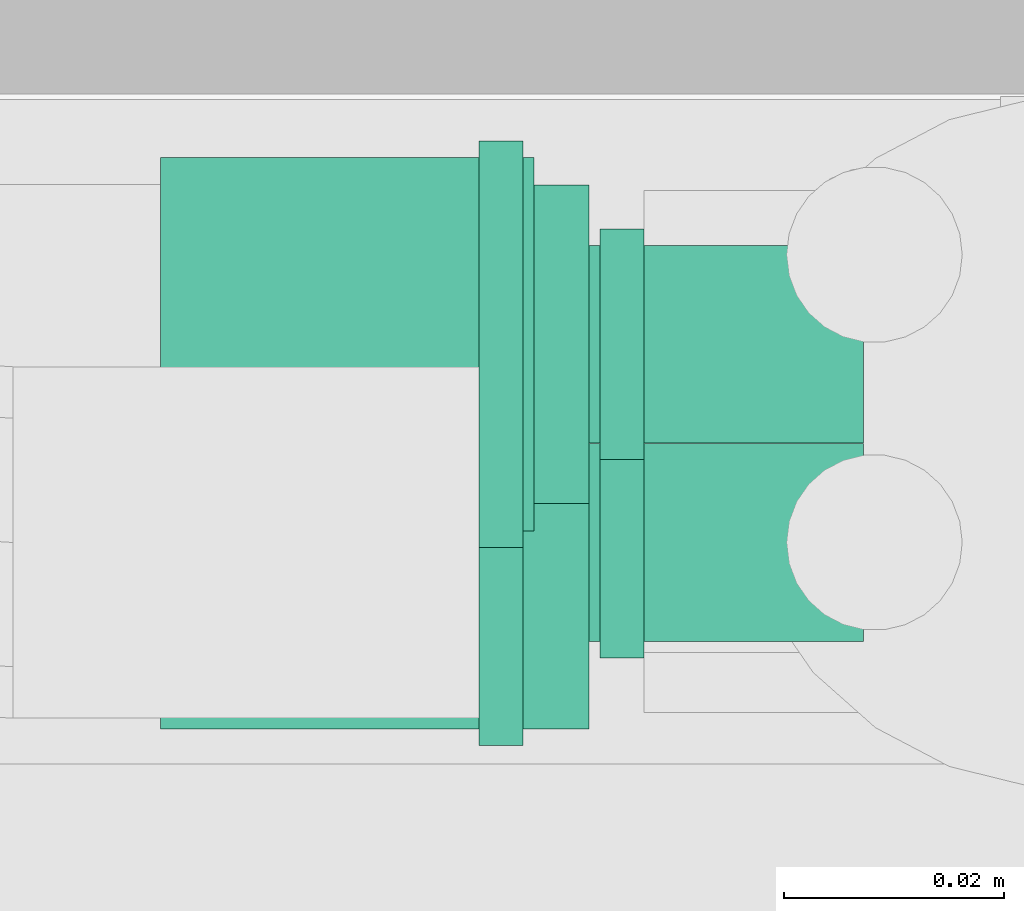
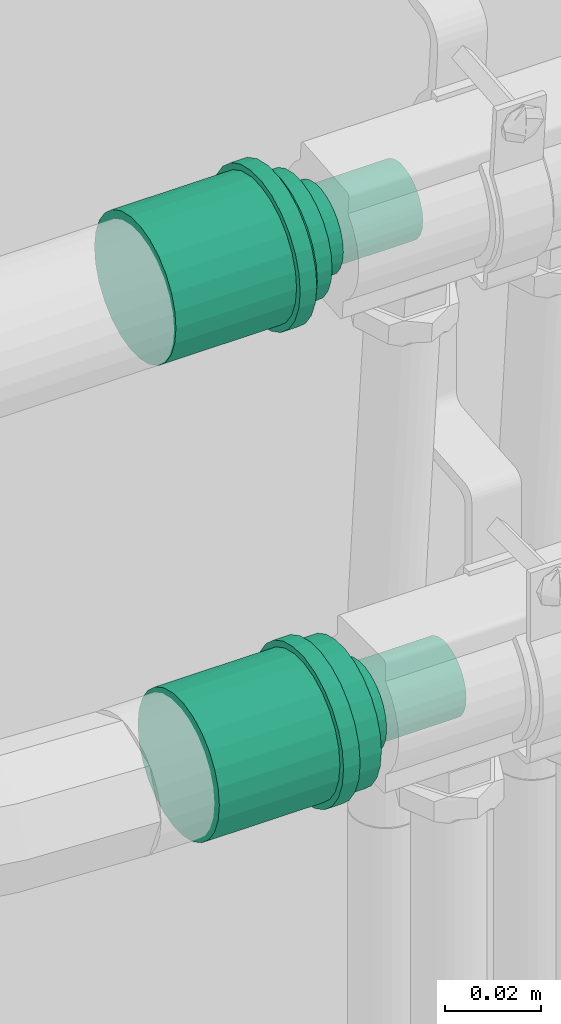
# One storey, part 24 of 30: 2 flow fittings.
"""IFC2X3 building model written with IfcOpenShell, lengths in metres."""

import ifcopenshell
import ifcopenshell.guid

model = None  # the IFC model being written
_history = None  # IfcOwnerHistory: only IFC2X3 demands one
_inside = {}  # id of a spatial element -> (the spatial element, [elements in it])
_under = {}  # id of a project, library or spatial element -> (it, [spatial elements below it])
_declared = {}  # id of a project -> (the project, [libraries it declares])
_typed = {}  # id of a type object -> (the type object, [elements of that type])
_made_of = {}  # id of a material, layer set ... -> (it, [elements and type objects made of it])


def new_model(schema):
    """Start an empty IFC model of exactly this schema.

    Asked for "IFC4X3", IfcOpenShell would pick the latest addendum, in which some entities
    have other attributes; the version numbers below select the first issue.
    IFC2X3 requires an IfcOwnerHistory on every rooted entity: one is made here for all.
    """
    global model, _history
    if schema == "IFC4X3":
        model = ifcopenshell.file(schema_version=(4, 3, 0, 0))
    else:
        model = ifcopenshell.file(schema=schema)
    _inside.clear()
    _under.clear()
    _declared.clear()
    _typed.clear()
    _made_of.clear()
    _history = None
    if model.schema == "IFC2X3":
        org = make("IfcOrganization", Name="unknown")
        user = make(
            "IfcPersonAndOrganization",
            ThePerson=make("IfcPerson", FamilyName="unknown"),
            TheOrganization=org,
        )
        app = make(
            "IfcApplication",
            ApplicationDeveloper=org,
            Version="unknown",
            ApplicationFullName="unknown",
            ApplicationIdentifier="unknown",
        )
        _history = make(
            "IfcOwnerHistory",
            OwningUser=user,
            OwningApplication=app,
            ChangeAction="ADDED",
            CreationDate=0,
        )
    return model


def make(cls, **values):
    """One entity of the class cls with the attributes given. An attribute that is None is left unset."""
    return model.create_entity(
        cls, **{name: value for name, value in values.items() if value is not None}
    )


def entity(cls, *values):
    """Any entity or typed value of the class cls, its attributes in the order of the schema. None: left unset."""
    e = model.create_entity(cls)
    for i, value in enumerate(values):
        if value is not None:
            e[i] = value
    return e


def rooted(cls, **values):
    """An entity with a GlobalId (a new one), such as an element, a storey or a relation."""
    return make(cls, GlobalId=ifcopenshell.guid.new(), OwnerHistory=_history, **values)


def si_unit(unit_type, name, prefix=None):
    """IfcSIUnit, for example si_unit("LENGTHUNIT", "METRE", prefix="MILLI")."""
    return make("IfcSIUnit", UnitType=unit_type, Prefix=prefix, Name=name)


def converted_unit(unit_type, name, factor, base, dimensions=None, offset=None):
    """IfcConversionBasedUnit, such as the inch: factor (a typed value) times the base unit."""
    return make(
        "IfcConversionBasedUnit"
        if offset is None
        else "IfcConversionBasedUnitWithOffset",
        ConversionOffset=offset,
        Dimensions=None
        if dimensions is None
        else entity("IfcDimensionalExponents", *dimensions),
        UnitType=unit_type,
        Name=name,
        ConversionFactor=make(
            "IfcMeasureWithUnit", ValueComponent=factor, UnitComponent=base
        ),
    )


def derived_unit(unit_type, elements):
    """IfcDerivedUnit: a product of units, each with its exponent."""
    return make(
        "IfcDerivedUnit",
        Elements=[
            make("IfcDerivedUnitElement", Unit=unit, Exponent=power)
            for unit, power in elements
        ],
        UnitType=unit_type,
    )


def assignment(units):
    """IfcUnitAssignment: the units of a project."""
    return None if units is None else make("IfcUnitAssignment", Units=units)


def point(xyz):
    """IfcCartesianPoint."""
    return None if xyz is None else make("IfcCartesianPoint", Coordinates=xyz)


def direction(xyz):
    """IfcDirection."""
    return None if xyz is None else make("IfcDirection", DirectionRatios=xyz)


def frame(location, z_axis=None, x_axis=None):
    """IfcAxis2Placement3D, a coordinate frame: its origin and axes. An axis left out is left unset."""
    return make(
        "IfcAxis2Placement3D",
        Location=point(location),
        Axis=direction(z_axis),
        RefDirection=direction(x_axis),
    )


def frame_2d(location, x_axis=None):
    """IfcAxis2Placement2D, a coordinate frame in the plane: its origin and x axis."""
    return make(
        "IfcAxis2Placement2D", Location=point(location), RefDirection=direction(x_axis)
    )


def origin():
    """The frame at (0, 0, 0) with its axes left unset."""
    return frame((0.0, 0.0, 0.0))


def place(relative_to, where):
    """IfcLocalPlacement: puts the frame where relative to a parent placement (None: the world)."""
    return make(
        "IfcLocalPlacement", PlacementRelTo=relative_to, RelativePlacement=where
    )


def context(
    kind, dimensions, precision=None, world=None, true_north=None, identifier=None
):
    """IfcGeometricRepresentationContext, for example the 3D "Model" context."""
    return make(
        "IfcGeometricRepresentationContext",
        ContextIdentifier=identifier,
        ContextType=kind,
        CoordinateSpaceDimension=dimensions,
        Precision=precision,
        WorldCoordinateSystem=world,
        TrueNorth=true_north,
    )


def subcontext(parent, identifier, kind, view, scale=None):
    """IfcGeometricRepresentationSubContext, for example "Body" below "Model"."""
    return make(
        "IfcGeometricRepresentationSubContext",
        ContextIdentifier=identifier,
        ContextType=kind,
        ParentContext=parent,
        TargetScale=scale,
        TargetView=view,
    )


def project(units=None, contexts=None):
    """IfcProject with its units and contexts."""
    return rooted(
        "IfcProject",
        Name="project",
        RepresentationContexts=contexts,
        UnitsInContext=assignment(units),
    )


def spatial(cls, under=None, at=None, **own):
    """A site, building, storey or space (cls), placed at a placement, below another one or the project."""
    s = rooted(cls, ObjectPlacement=at, **own)
    if under is not None:
        _under.setdefault(under.id(), (under, []))[1].append(s)
    return s


def profile(cls, at=None, kind="AREA", **sizes):
    """A parametric profile (cls). Its sizes go by their IFC names, for example OverallWidth=200.0."""
    return make(cls, ProfileType=kind, Position=at, **sizes)


def circle(**sizes):
    """IfcCircleProfileDef."""
    return profile("IfcCircleProfileDef", **sizes)


def extrude(swept, where, along, depth):
    """IfcExtrudedAreaSolid: the profile swept, set in the frame where, extruded along a direction by depth."""
    return make(
        "IfcExtrudedAreaSolid",
        SweptArea=swept,
        Position=where,
        ExtrudedDirection=direction(along),
        Depth=depth,
    )


def shape(context_of_items, identifier, shape_type, items):
    """IfcShapeRepresentation: the items that make up one representation, for example the "Body"."""
    return make(
        "IfcShapeRepresentation",
        ContextOfItems=context_of_items,
        RepresentationIdentifier=identifier,
        RepresentationType=shape_type,
        Items=items,
    )


def source(mapping_origin, context_of_items, identifier, shape_type, items):
    """IfcRepresentationMap: a shape defined once, which mapped items show again and again."""
    return make(
        "IfcRepresentationMap",
        MappingOrigin=mapping_origin,
        MappedRepresentation=shape(context_of_items, identifier, shape_type, items),
    )


def transform(
    local_origin,
    x_axis=None,
    y_axis=None,
    z_axis=None,
    scale=None,
    scale2=None,
    scale3=None,
    uniform=True,
):
    """IfcCartesianTransformationOperator3D, or its non-uniform kind. x_axis, y_axis, z_axis: its Axis1, 2, 3."""
    if uniform:
        return make(
            "IfcCartesianTransformationOperator3D",
            Axis1=direction(x_axis),
            Axis2=direction(y_axis),
            LocalOrigin=point(local_origin),
            Scale=scale,
            Axis3=direction(z_axis),
        )
    return make(
        "IfcCartesianTransformationOperator3DnonUniform",
        Axis1=direction(x_axis),
        Axis2=direction(y_axis),
        LocalOrigin=point(local_origin),
        Scale=scale,
        Axis3=direction(z_axis),
        Scale2=scale2,
        Scale3=scale3,
    )


def mapped(mapping_source, mapping_target):
    """IfcMappedItem: shows the shape of a source again, moved by a transform."""
    return make(
        "IfcMappedItem", MappingSource=mapping_source, MappingTarget=mapping_target
    )


def material(Name=None, Category=None):
    """IfcMaterial."""
    return make("IfcMaterial", Name=Name, Category=Category)


def material_list(materials):
    """IfcMaterialList."""
    return make("IfcMaterialList", Materials=materials)


def made_of(thing, what):
    """Note that an element or type object is made of a material, layer set ...; save() writes the relation."""
    if what is not None:
        _made_of.setdefault(what.id(), (what, []))[1].append(thing)
    return thing


def type_object(cls, material=None, **own):
    """A type object (cls), such as IfcWallType, which elements share."""
    return made_of(rooted(cls, **own), material)


def type_shapes(of_type, sources):
    """Give a type object the sources (RepresentationMaps) that its elements show as mapped items."""
    of_type.RepresentationMaps = sources


def element(
    cls,
    number,
    at=None,
    inside=None,
    cuts=None,
    type_object=None,
    material=None,
    context=None,
    identifier="Body",
    shape_type=None,
    held_by="IfcProductDefinitionShape",
    body=None,
    shapes=None,
    **own,
):
    """One element of the class cls, such as IfcWall. Its Tag is "e" and its number.

    at: its placement. inside: the storey or other place that contains it. cuts: it is an
    opening in that element (IfcRelVoidsElement). A single representation is given by context,
    identifier, shape_type and body (its items); several are given by shapes. held_by: the class
    of the entity that holds the representations. save() writes the other relations.
    """
    e = rooted(cls, Tag="e%d" % number, ObjectPlacement=at, **own)
    if body is not None:
        shapes = [shape(context, identifier, shape_type, body)]
    if shapes is not None:
        e.Representation = make(held_by, Representations=shapes)
    if inside is not None:
        _inside.setdefault(inside.id(), (inside, []))[1].append(e)
    if cuts is not None:
        rooted(
            "IfcRelVoidsElement", RelatingBuildingElement=cuts, RelatedOpeningElement=e
        )
    if type_object is not None:
        _typed.setdefault(type_object.id(), (type_object, []))[1].append(e)
    return made_of(e, material)


def aggregate(whole, parts):
    """IfcRelAggregates: a whole, such as a stair, and the parts it consists of."""
    return rooted("IfcRelAggregates", RelatingObject=whole, RelatedObjects=parts)


def save(model, path):
    """Write the relations noted so far, then the file.

    IfcRelAggregates (storeys below a building ...), IfcRelContainedInSpatialStructure (elements
    in a storey), IfcRelDefinesByType, IfcRelAssociatesMaterial and IfcRelDeclares: one each for
    every whole, place, type object, material and project.
    """
    for whole, parts in _under.values():
        aggregate(whole, parts)
    for where, things in _inside.values():
        rooted(
            "IfcRelContainedInSpatialStructure",
            RelatedElements=things,
            RelatingStructure=where,
        )
    for kind, things in _typed.values():
        rooted("IfcRelDefinesByType", RelatedObjects=things, RelatingType=kind)
    for what, things in _made_of.values():
        rooted("IfcRelAssociatesMaterial", RelatedObjects=things, RelatingMaterial=what)
    for by, libraries in _declared.values():
        rooted("IfcRelDeclares", RelatingContext=by, RelatedDefinitions=libraries)
    model.write(path)


model = new_model("IFC2X3")

# Units and contexts
model_context = context("Model", 3, precision=1e-05, world=origin(), true_north=direction((6.123031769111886e-17, 1.0)))
body_context = subcontext(model_context, "Body", "Model", "MODEL_VIEW")
ifc_project = project(units=[si_unit("LENGTHUNIT", "METRE"), si_unit("AREAUNIT", "SQUARE_METRE"), si_unit("VOLUMEUNIT", "CUBIC_METRE"), converted_unit("PLANEANGLEUNIT", "DEGREE", entity("IfcPlaneAngleMeasure", 0.017453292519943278), si_unit("PLANEANGLEUNIT", "RADIAN"), dimensions=[0, 0, 0, 0, 0, 0, 0]), si_unit("MASSUNIT", "GRAM", prefix="KILO"), derived_unit("MASSDENSITYUNIT", [(si_unit("MASSUNIT", "GRAM", prefix="KILO"), 1), (si_unit("LENGTHUNIT", "METRE"), -3)]), derived_unit("IONCONCENTRATIONUNIT", [(si_unit("MASSUNIT", "GRAM", prefix="KILO"), 1), (si_unit("LENGTHUNIT", "METRE"), -3)]), derived_unit("MOMENTOFINERTIAUNIT", [(si_unit("LENGTHUNIT", "METRE"), 4)]), si_unit("TIMEUNIT", "SECOND"), si_unit("FREQUENCYUNIT", "HERTZ"), si_unit("THERMODYNAMICTEMPERATUREUNIT", "DEGREE_CELSIUS"), derived_unit("THERMALTRANSMITTANCEUNIT", [(si_unit("MASSUNIT", "GRAM", prefix="KILO"), 1), (si_unit("THERMODYNAMICTEMPERATUREUNIT", "KELVIN"), -1), (si_unit("TIMEUNIT", "SECOND"), -3)]), derived_unit("THERMALCONDUCTANCEUNIT", [(si_unit("MASSUNIT", "GRAM", prefix="KILO"), 1), (si_unit("THERMODYNAMICTEMPERATUREUNIT", "KELVIN"), -1), (si_unit("TIMEUNIT", "SECOND"), -3), (si_unit("LENGTHUNIT", "METRE"), 1)]), derived_unit("VOLUMETRICFLOWRATEUNIT", [(si_unit("LENGTHUNIT", "METRE", prefix="DECI"), 3), (si_unit("TIMEUNIT", "SECOND"), -1)]), derived_unit("MASSFLOWRATEUNIT", [(si_unit("MASSUNIT", "GRAM", prefix="KILO"), 1), (si_unit("TIMEUNIT", "SECOND"), -1)]), derived_unit("ROTATIONALFREQUENCYUNIT", [(si_unit("TIMEUNIT", "SECOND"), -1)]), si_unit("ELECTRICCURRENTUNIT", "AMPERE"), si_unit("ELECTRICVOLTAGEUNIT", "VOLT"), si_unit("POWERUNIT", "WATT"), si_unit("FORCEUNIT", "NEWTON", prefix="KILO"), si_unit("ILLUMINANCEUNIT", "LUX"), si_unit("LUMINOUSFLUXUNIT", "LUMEN"), si_unit("LUMINOUSINTENSITYUNIT", "CANDELA"), si_unit("ENERGYUNIT", "JOULE"), derived_unit("USERDEFINED", [(si_unit("MASSUNIT", "GRAM", prefix="KILO"), -1), (si_unit("LENGTHUNIT", "METRE"), -2), (si_unit("TIMEUNIT", "SECOND"), 3), (si_unit("LUMINOUSFLUXUNIT", "LUMEN"), 1)]), derived_unit("USERDEFINED", [(si_unit("MASSUNIT", "GRAM", prefix="KILO"), 1), (si_unit("TIMEUNIT", "SECOND"), -3), (si_unit("LENGTHUNIT", "METRE"), 3), (si_unit("ELECTRICCURRENTUNIT", "AMPERE"), -2)]), derived_unit("SOUNDPOWERUNIT", [(si_unit("MASSUNIT", "GRAM", prefix="KILO"), 1), (si_unit("TIMEUNIT", "SECOND"), -3), (si_unit("LENGTHUNIT", "METRE"), 2)]), derived_unit("SOUNDPRESSUREUNIT", [(si_unit("MASSUNIT", "GRAM", prefix="KILO"), 1), (si_unit("LENGTHUNIT", "METRE"), -1), (si_unit("TIMEUNIT", "SECOND"), -2)]), derived_unit("LINEARVELOCITYUNIT", [(si_unit("LENGTHUNIT", "METRE"), 1), (si_unit("TIMEUNIT", "SECOND"), -1)]), si_unit("PRESSUREUNIT", "PASCAL"), derived_unit("USERDEFINED", [(si_unit("MASSUNIT", "GRAM", prefix="KILO"), 1), (si_unit("LENGTHUNIT", "METRE"), -2), (si_unit("TIMEUNIT", "SECOND"), -2)]), derived_unit("LINEARFORCEUNIT", [(si_unit("MASSUNIT", "GRAM", prefix="KILO"), 1), (si_unit("TIMEUNIT", "SECOND"), -2)]), derived_unit("PLANARFORCEUNIT", [(si_unit("MASSUNIT", "GRAM", prefix="KILO"), 1), (si_unit("LENGTHUNIT", "METRE"), -1), (si_unit("TIMEUNIT", "SECOND"), -2)]), derived_unit("SPECIFICHEATCAPACITYUNIT", [(si_unit("THERMODYNAMICTEMPERATUREUNIT", "KELVIN"), -1), (si_unit("LENGTHUNIT", "METRE"), 2), (si_unit("TIMEUNIT", "SECOND"), -2)]), derived_unit("HEATFLUXDENSITYUNIT", [(si_unit("MASSUNIT", "GRAM", prefix="KILO"), 1), (si_unit("TIMEUNIT", "SECOND"), -3)]), derived_unit("HEATINGVALUEUNIT", [(si_unit("LENGTHUNIT", "METRE"), 2), (si_unit("TIMEUNIT", "SECOND"), -2)]), derived_unit("VAPORPERMEABILITYUNIT", [(si_unit("LENGTHUNIT", "METRE"), -1), (si_unit("TIMEUNIT", "SECOND"), 1)]), derived_unit("DYNAMICVISCOSITYUNIT", [(si_unit("MASSUNIT", "GRAM", prefix="KILO"), 1), (si_unit("TIMEUNIT", "SECOND"), -1), (si_unit("LENGTHUNIT", "METRE"), -1)]), derived_unit("THERMALEXPANSIONCOEFFICIENTUNIT", [(si_unit("THERMODYNAMICTEMPERATUREUNIT", "KELVIN"), -1)]), derived_unit("MODULUSOFELASTICITYUNIT", [(si_unit("MASSUNIT", "GRAM", prefix="KILO"), 1), (si_unit("LENGTHUNIT", "METRE"), -1), (si_unit("TIMEUNIT", "SECOND"), -2)]), derived_unit("ISOTHERMALMOISTURECAPACITYUNIT", [(si_unit("MASSUNIT", "GRAM", prefix="KILO"), -1), (si_unit("LENGTHUNIT", "METRE"), 3)]), derived_unit("MOISTUREDIFFUSIVITYUNIT", [(si_unit("TIMEUNIT", "SECOND"), -1), (si_unit("LENGTHUNIT", "METRE"), 2)]), derived_unit("MASSPERLENGTHUNIT", [(si_unit("MASSUNIT", "GRAM", prefix="KILO"), 1), (si_unit("LENGTHUNIT", "METRE"), -1)]), derived_unit("THERMALRESISTANCEUNIT", [(si_unit("MASSUNIT", "GRAM", prefix="KILO"), -1), (si_unit("TIMEUNIT", "SECOND"), 3), (si_unit("THERMODYNAMICTEMPERATUREUNIT", "KELVIN"), 1)]), derived_unit("ACCELERATIONUNIT", [(si_unit("LENGTHUNIT", "METRE"), 1), (si_unit("TIMEUNIT", "SECOND"), -2)]), derived_unit("ANGULARVELOCITYUNIT", [(si_unit("TIMEUNIT", "SECOND"), -1), (si_unit("PLANEANGLEUNIT", "RADIAN"), 1)]), derived_unit("LINEARSTIFFNESSUNIT", [(si_unit("MASSUNIT", "GRAM", prefix="KILO"), 1), (si_unit("TIMEUNIT", "SECOND"), -2)]), derived_unit("WARPINGCONSTANTUNIT", [(si_unit("LENGTHUNIT", "METRE"), 6)]), derived_unit("LINEARMOMENTUNIT", [(si_unit("MASSUNIT", "GRAM", prefix="KILO"), 1), (si_unit("LENGTHUNIT", "METRE"), 1), (si_unit("TIMEUNIT", "SECOND"), -2)]), derived_unit("TORQUEUNIT", [(si_unit("MASSUNIT", "GRAM", prefix="KILO"), 1), (si_unit("LENGTHUNIT", "METRE"), 2), (si_unit("TIMEUNIT", "SECOND"), -2)])], contexts=[model_context])

# Site, building, storey
site_placement = place(None, origin())
site = spatial("IfcSite", under=ifc_project, at=site_placement, Name="Default", CompositionType="ELEMENT")
building_placement = place(site_placement, origin())
building = spatial("IfcBuilding", under=site, at=building_placement, CompositionType="ELEMENT")
storey_placement = place(building_placement, origin())
storey = spatial("IfcBuildingStorey", under=building, at=storey_placement, Name="Niveau 0", CompositionType="ELEMENT", Elevation=-1.949160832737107e-14)

# Flow fittings
ifc_material_1 = material(Name="Bague blanche VisuControl")
ifc_material_2 = material(Name="Inox")
ifc_material_3 = material(Name="PPSU")
ifc_material_list = material_list([ifc_material_1, ifc_material_2, ifc_material_3])
pipe_fitting_type_1 = type_object("IfcPipeFittingType", Name="COMAP - SKINPRESS ppsu - Manchon_Réduit_9240W:Manchon_Réduit_9240W", PredefinedType="NOTDEFINED", material=ifc_material_list)
shared_shape_1 = source(origin(), body_context, "Body", "SweptSolid", [
    extrude(circle(Radius=0.0105, at=frame_2d((6.058315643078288e-19, -1.696321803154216e-17), x_axis=(1.0, 0.0))), frame((-0.01000000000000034, 0.0, 0.0), z_axis=(1.0, 0.0, 0.0), x_axis=(0.0, 1.0, 0.0)), (0.0, 0.0, 1.0), 0.004),
    extrude(circle(Radius=0.009000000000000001, at=frame_2d((4.420736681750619e-19, -1.453990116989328e-17), x_axis=(1.0, 0.0))), frame((-0.03000000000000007, 0.0, 0.0), z_axis=(1.0, 0.0, 0.0), x_axis=(0.0, 1.0, 0.0)), (0.0, 0.0, 1.0), 0.025),
    extrude(circle(Radius=0.018500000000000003, at=frame_2d((-1.0509276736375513e-18, -8.32893021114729e-17), x_axis=(1.0, 0.0))), frame((0.0010000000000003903, 0.0, 0.0), z_axis=(1.0, 0.0, 0.0), x_axis=(0.0, -1.0, 0.0)), (0.0, 0.0, 1.0), 0.004000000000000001),
    extrude(circle(Radius=0.017, at=frame_2d((7.420825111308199e-19, -7.65361154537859e-17), x_axis=(1.0, 0.0))), frame((0.0, 0.0, 0.0), z_axis=(1.0, 0.0, 0.0), x_axis=(0.0, -1.0, 0.0)), (0.0, 0.0, 1.0), 0.034),
    extrude(circle(Radius=0.017, at=frame_2d((0.0, -2.746425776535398e-17), x_axis=(1.0, 0.0))), frame((-0.005000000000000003, 0.0, 0.0), z_axis=(1.0, 0.0, 0.0), x_axis=(0.0, 1.0, 0.0)), (0.0, 0.0, 1.0), 0.005000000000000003),
])
type_shapes(pipe_fitting_type_1, [shared_shape_1])
flow_fitting_1_placement = place(storey_placement, frame((-18.482541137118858, 2.8277041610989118, 0.4705625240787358), z_axis=(0.0, 0.0, 1.0), x_axis=(-1.0, 0.0, 0.0)))
element("IfcFlowFitting", 1, at=flow_fitting_1_placement, inside=storey, type_object=pipe_fitting_type_1, material=ifc_material_list, Name="COMAP - SKINPRESS ppsu - Manchon_Réduit_9240W:Manchon_Réduit_9240W", ObjectType="COMAP - SKINPRESS ppsu - Manchon_Réduit_9240W:Manchon_Réduit_9240W", context=body_context, shape_type="MappedRepresentation", body=[
    mapped(shared_shape_1, transform((0.0, 0.0, 0.0), scale=1.0)),
])
pipe_fitting_type_2 = type_object("IfcPipeFittingType", Name="COMAP - SKINPRESS ppsu - Manchon_Réduit_9240W:Manchon_Réduit_9240W", PredefinedType="NOTDEFINED", material=ifc_material_list)
shared_shape_2 = source(origin(), body_context, "Body", "SweptSolid", [
    extrude(circle(Radius=0.018500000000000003, at=frame_2d((-8.440228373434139e-19, -2.988757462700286e-17), x_axis=(1.0, 0.0))), frame((-0.005000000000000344, 0.0, 0.0), z_axis=(1.0, 0.0, 0.0), x_axis=(0.0, 1.0, 0.0)), (0.0, 0.0, 1.0), 0.004),
    extrude(circle(Radius=0.017, at=frame_2d((-4.99853699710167e-19, -2.746425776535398e-17), x_axis=(1.0, 0.0))), frame((-0.03400000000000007, 0.0, 0.0), z_axis=(1.0, 0.0, 0.0), x_axis=(0.0, 1.0, 0.0)), (0.0, 0.0, 1.0), 0.034),
    extrude(circle(Radius=0.0105, at=frame_2d((-3.812600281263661e-19, -4.727230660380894e-17), x_axis=(1.0, 0.0))), frame((0.006000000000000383, 0.0, 0.0), z_axis=(1.0, 0.0, 0.0), x_axis=(0.0, -1.0, 0.0)), (0.0, 0.0, 1.0), 0.004000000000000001),
    extrude(circle(Radius=0.009000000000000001, at=frame_2d((3.542627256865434e-19, -4.051911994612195e-17), x_axis=(1.0, 0.0))), frame((0.005000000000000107, 0.0, 0.0), z_axis=(1.0, 0.0, 0.0), x_axis=(0.0, -1.0, 0.0)), (0.0, 0.0, 1.0), 0.025),
    extrude(circle(Radius=0.014499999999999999, at=frame_2d((0.0, -2.3425396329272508e-17), x_axis=(1.0, 0.0))), frame((0.0, 0.0, 0.0), z_axis=(1.0, 0.0, 0.0), x_axis=(0.0, 1.0, 0.0)), (0.0, 0.0, 1.0), 0.005000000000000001),
])
type_shapes(pipe_fitting_type_2, [shared_shape_2])
flow_fitting_2_placement = place(storey_placement, frame((-18.482541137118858, 2.845768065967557, 0.5809440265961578), z_axis=(0.0, -0.009589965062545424, 0.99995401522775), x_axis=(1.0, 0.0, 0.0)))
element("IfcFlowFitting", 2, at=flow_fitting_2_placement, inside=storey, type_object=pipe_fitting_type_2, material=ifc_material_list, Name="COMAP - SKINPRESS ppsu - Manchon_Réduit_9240W:Manchon_Réduit_9240W", ObjectType="COMAP - SKINPRESS ppsu - Manchon_Réduit_9240W:Manchon_Réduit_9240W", context=body_context, shape_type="MappedRepresentation", body=[
    mapped(shared_shape_2, transform((0.0, 0.0, 0.0), scale=1.0)),
])

save(model, "model.ifc")
